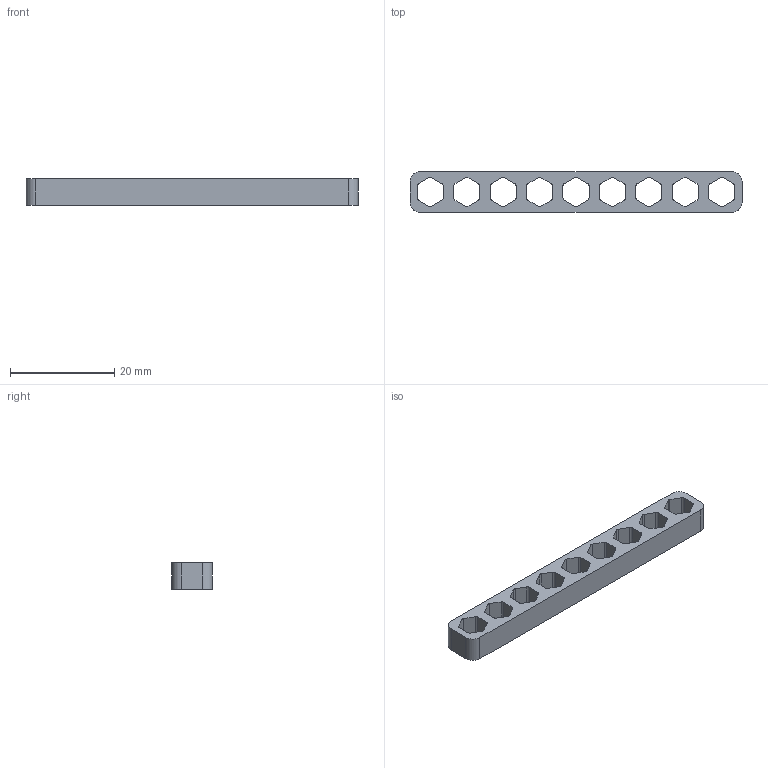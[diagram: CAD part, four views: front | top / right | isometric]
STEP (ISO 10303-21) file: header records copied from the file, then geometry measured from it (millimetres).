
FILE_DESCRIPTION(('CATIA V5 STEP Exchange','CAx-IF Rec.Pracs.--- Model Styling and Organization---1.4--- 2014-01-23'),'2;1');
FILE_NAME('D:\모델\플래그\플래그\일반\04.stp','2026-07-14T16:02:00+00:00',('none'),('none'),'CATIA Version 5-6 Release 2018','CATIA V5 STEP AP214','none');
FILE_SCHEMA(('AUTOMOTIVE_DESIGN { 1 0 10303 214 1 1 1 1 }'));
Length unit declared in the file: millimetre
Products named in the file (1): bulkhead11
Bounding box: 63.78 x 7.8 x 5 mm (x, y, z)
Volume: 1501.3 mm3; surface area: 2064.9 mm2
Topology: 1 solids, 1 shells, 118 faces, 348 edges, 232 vertices
Faces by surface type: plane 60, cylinder 58
Entity records: 3926 total; most frequent: CARTESIAN_POINT 699, ORIENTED_EDGE 696, DIRECTION 584, EDGE_CURVE 348, AXIS2_PLACEMENT_3D 235, VECTOR 232, LINE 232, VERTEX_POINT 232
